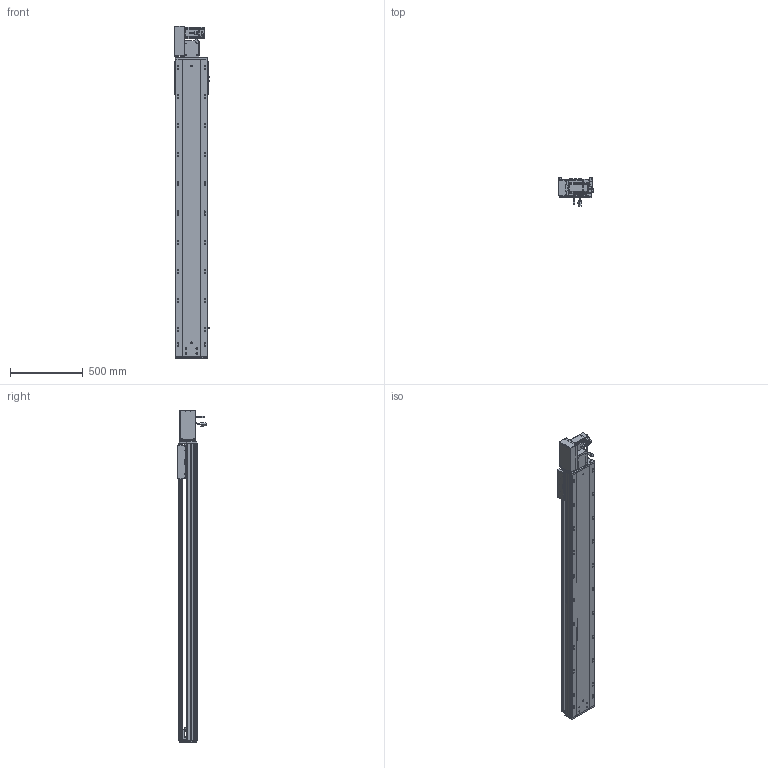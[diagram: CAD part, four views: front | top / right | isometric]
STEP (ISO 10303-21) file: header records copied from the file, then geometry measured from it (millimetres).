
FILE_DESCRIPTION (( 'STEP AP203' ), '1' );
FILE_NAME ('RY220-T-300-LK.SLDASM_1700.step', '2022-07-25T08:14:49', ( '' ), ( '' ), 'SwSTEP 2.0', 'SolidWorks 2016', '' );
FILE_SCHEMA (( 'CONFIG_CONTROL_DESIGN' ));
Length unit declared in the file: millimetre
Products named in the file (14): 滅袉蝶18-15; RY220-T菁釱-300_1700; 覜茼ん672; RY220-同步轮副支撑座6304×2; RY220-T-蛌殏萇儂假蚾啣(750W); RY220圉猾敕々湍臏賑輸; RY220翋肮祭謫釱; RY220翋肮祭謫裔啣; 110A-T-肮祭謫釱傷裔; 怢湛750W_ECMA-CX0807ES; RY220-俋离672覜茼んえ; RY220-T-300-奻裔啣_1700; RY220-T-湍謫欶(鍼踢); RY220-T-300-LK.SLDASM_1700
Assembly tree (18 placements, depth 2):
  RY220-T-300-LK.SLDASM_1700
    RY220-T菁釱-300_1700
    RY220翋肮祭謫釱
    覜茼ん672  x3
    RY220圉猾敕々湍臏賑輸
    RY220-T-300-奻裔啣_1700
    RY220-俋离672覜茼んえ
    滅袉蝶18-15  x3
    RY220翋肮祭謫裔啣  x2
    110A-T-肮祭謫釱傷裔
    怢湛750W_ECMA-CX0807ES
    RY220-T-湍謫欶(鍼踢)
    RY220-T-蛌殏萇儂假蚾啣(750W)
    RY220-同步轮副支撑座6304×2
Bounding box: 239.7 x 198.77 x 2279 mm (x, y, z)
Volume: 16788987.9 mm3; surface area: 5057047 mm2
Topology: 19 solids, 19 shells, 2768 faces, 7647 edges, 4828 vertices
Faces by surface type: cylinder 1324, plane 1069, cone 293, bspline 56, sphere 16, torus 10
Entity records: 92227 total; most frequent: CARTESIAN_POINT 26211, ORIENTED_EDGE 13690, DIRECTION 13044, EDGE_CURVE 6845, AXIS2_PLACEMENT_3D 4650, VERTEX_POINT 4452, LINE 3744, VECTOR 3744
